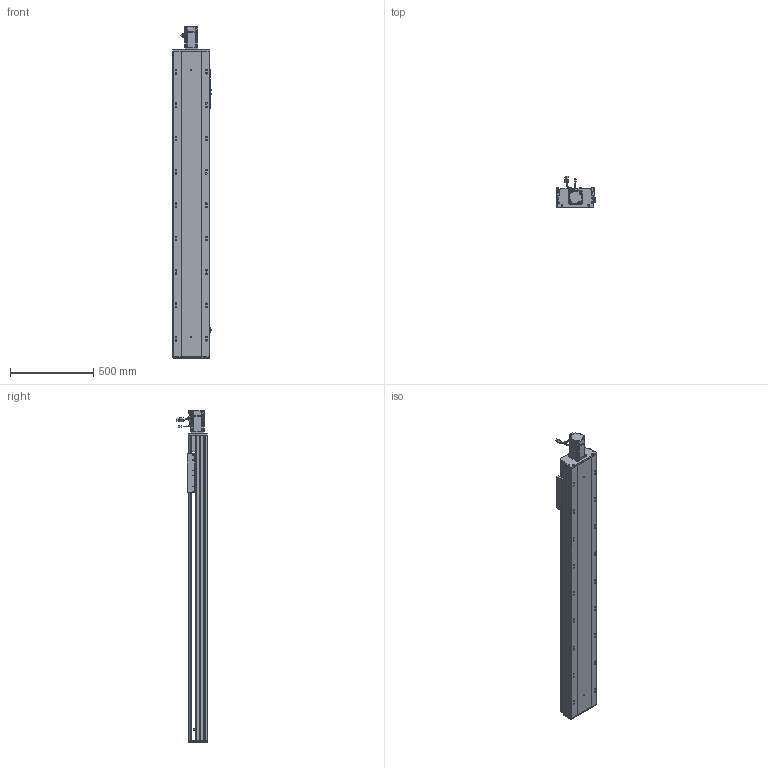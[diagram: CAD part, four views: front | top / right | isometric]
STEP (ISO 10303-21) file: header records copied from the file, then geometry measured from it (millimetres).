
FILE_DESCRIPTION (( 'STEP AP203' ), '1' );
FILE_NAME ('RY220-L2525-800-MK-邧嶺.SLDASM_1400.step', '2022-08-06T08:57:54', ( '' ), ( '' ), 'SwSTEP 2.0', 'SolidWorks 2016', '' );
FILE_SCHEMA (( 'CONFIG_CONTROL_DESIGN' ));
Length unit declared in the file: millimetre
Products named in the file (12): RY220綴裔啣; RY220ヶ裔啣; 覜茼ん672; RY220电机支撑座FK20（PCD90M6）; 滅袉蝶18-15; 滅袉蝶18-12; RY220菁釱MK-800-邧嶺_1400; RY220-800-奻裔啣-MK_1400; RY220-俋离672覜茼んえ; RY220-L2525-800-MK-邧嶺.SLDASM_1400; 怢湛750W_ECMA-CX0807ES; RY220半封闭25-32螺母铝滑块
Assembly tree (15 placements, depth 2):
  RY220-L2525-800-MK-邧嶺.SLDASM_1400
    RY220菁釱MK-800-邧嶺_1400
    RY220电机支撑座FK20（PCD90M6）
    怢湛750W_ECMA-CX0807ES
    滅袉蝶18-12  x2
    RY220ヶ裔啣
    RY220綴裔啣
    覜茼ん672  x3
    RY220半封闭25-32螺母铝滑块
    RY220-800-奻裔啣-MK_1400
    RY220-俋离672覜茼んえ
    滅袉蝶18-15  x2
Bounding box: 238.7 x 187.27 x 1990.3 mm (x, y, z)
Volume: 15139347.7 mm3; surface area: 4339338.1 mm2
Topology: 16 solids, 16 shells, 2318 faces, 6426 edges, 4040 vertices
Faces by surface type: cylinder 1060, plane 915, cone 281, bspline 36, sphere 16, torus 10
Entity records: 76184 total; most frequent: CARTESIAN_POINT 21531, ORIENTED_EDGE 11328, DIRECTION 10783, EDGE_CURVE 5664, AXIS2_PLACEMENT_3D 3815, VERTEX_POINT 3696, VECTOR 3153, LINE 3153
